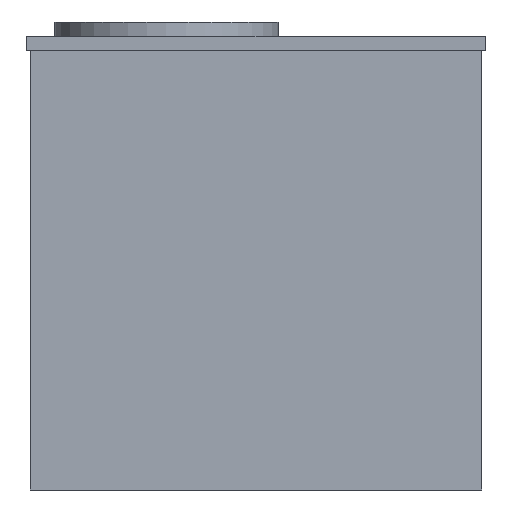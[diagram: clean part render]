
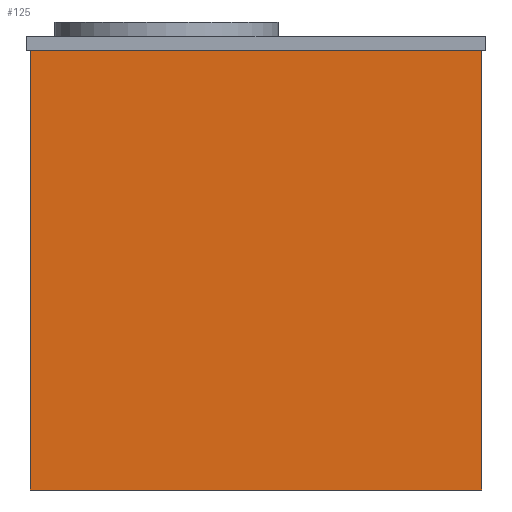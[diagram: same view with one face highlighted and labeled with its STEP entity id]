
A CAD part, front view. The second image highlights one B-rep face of the part: STEP entity #125.
In plain terms, the highlighted planar face has unit normal (0, -1, 0).
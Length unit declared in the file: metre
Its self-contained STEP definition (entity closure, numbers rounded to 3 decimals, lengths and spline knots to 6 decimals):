
#125=ADVANCED_FACE('0:42',(#298),#299,.T.);
#298=FACE_OUTER_BOUND('',#517,.T.);
#299=PLANE('',#518);
#517=EDGE_LOOP('',(#1311,#1312,#1313,#1314));
#518=AXIS2_PLACEMENT_3D('',#1315,#1316,#1317);
#1311=ORIENTED_EDGE('',*,*,#1614,.F.);
#1312=ORIENTED_EDGE('',*,*,#1615,.T.);
#1313=ORIENTED_EDGE('',*,*,#1616,.F.);
#1314=ORIENTED_EDGE('',*,*,#1598,.F.);
#1315=CARTESIAN_POINT('',(0.259,-1.38,0.0));
#1316=DIRECTION('',(0.0,-1.0,0.0));
#1317=DIRECTION('',(0.0,0.0,-1.0));
#1598=EDGE_CURVE('0:126',#1946,#1948,#1949,.F.);
#1614=EDGE_CURVE('0:117',#1974,#1946,#1975,.F.);
#1615=EDGE_CURVE('0:120',#1974,#1976,#1977,.T.);
#1616=EDGE_CURVE('0:123',#1948,#1976,#1978,.T.);
#1946=VERTEX_POINT('',#2716);
#1948=VERTEX_POINT('',#2719);
#1949=LINE('',#2720,#2721);
#1974=VERTEX_POINT('',#2757);
#1975=LINE('',#2758,#2759);
#1976=VERTEX_POINT('',#2760);
#1977=LINE('',#2761,#2762);
#1978=LINE('',#2763,#2764);
#2716=CARTESIAN_POINT('',(-0.762,-1.38,-0.625));
#2719=CARTESIAN_POINT('',(-0.762,-1.38,0.612));
#2720=CARTESIAN_POINT('',(-0.762,-1.38,0.0));
#2721=VECTOR('',#2936,1.0);
#2757=CARTESIAN_POINT('',(0.508,-1.38,-0.625));
#2758=CARTESIAN_POINT('',(0.1295,-1.38,-0.625));
#2759=VECTOR('',#2960,1.0);
#2760=CARTESIAN_POINT('',(0.508,-1.38,0.612));
#2761=CARTESIAN_POINT('',(0.508,-1.38,0.0));
#2762=VECTOR('',#2961,1.0);
#2763=CARTESIAN_POINT('',(0.1295,-1.38,0.612));
#2764=VECTOR('',#2962,1.0);
#2936=DIRECTION('',(-0.0,-0.0,-1.0));
#2960=DIRECTION('',(1.0,0.0,-0.0));
#2961=DIRECTION('',(0.0,0.0,1.0));
#2962=DIRECTION('',(1.0,0.0,-0.0));
